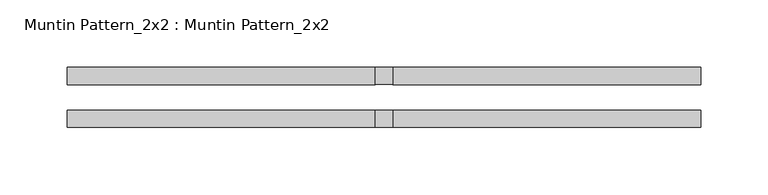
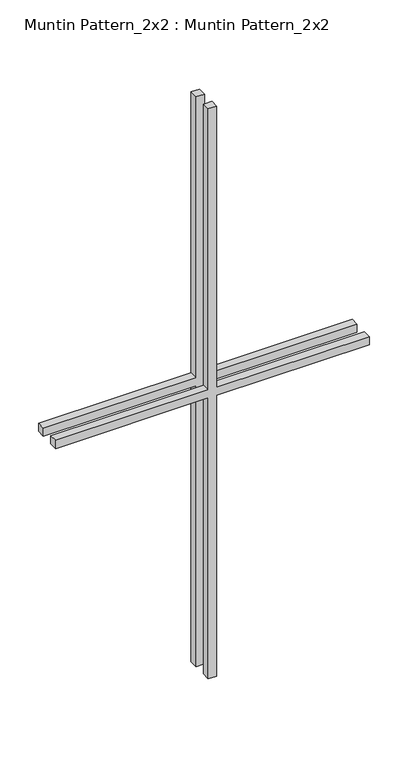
"""IFC4 building model written with IfcOpenShell, lengths in millimetres: proxy geometry, Muntin Pattern_2x2 : Muntin Pattern_2x2."""

from ifc_helpers import new_model, si_unit, frame, origin, place, context, project, spatial, polyline, outline, extrude, source, transform, mapped, element, save


def muntin_pattern_2x2_muntin_pattern_2x2_ddce0145(model_context):
    return source(origin(), model_context, "Body", "SweptSolid", [
        extrude(outline(polyline([(457.2, -6.35), (457.2, -234.95), (444.5, -234.95), (444.5, -6.35), (0.0, -6.35), (0.0, 6.35), (444.5, 6.35), (444.5, 234.95), (457.2, 234.95), (457.2, 6.35), (901.7, 6.35), (901.7, -6.35), (457.2, -6.35)])), frame((0.0, 9.525, 0.0), z_axis=(0.0, 1.0, 0.0), x_axis=(0.0, 0.0, 1.0)), (0.0, 0.0, 1.0), 12.7),
        extrude(outline(polyline([(457.2, -6.35), (457.2, -234.95), (444.5, -234.95), (444.5, -6.35), (0.0, -6.35), (0.0, 6.35), (444.5, 6.35), (444.5, 234.95), (457.2, 234.95), (457.2, 6.35), (901.7, 6.35), (901.7, -6.35), (457.2, -6.35)])), frame((0.0, -22.225, 0.0), z_axis=(0.0, 1.0, 0.0), x_axis=(0.0, 0.0, 1.0)), (0.0, 0.0, 1.0), 12.7),
    ])


if __name__ == "__main__":
    model = new_model("IFC4")
    model_context = context("Model", 3, world=origin())
    ifc_project = project(units=[si_unit("LENGTHUNIT", "METRE", prefix="MILLI")], contexts=[model_context])
    site = spatial("IfcSite", under=ifc_project)
    building = spatial("IfcBuilding", under=site)
    placement = place(None, origin())
    muntin_pattern_2x2_muntin_pattern_2x2_shape = muntin_pattern_2x2_muntin_pattern_2x2_ddce0145(model_context)
    element("IfcBuildingElementProxy", 1, Name="Muntin Pattern_2x2 : Muntin Pattern_2x2", ObjectType="Muntin Pattern_2x2 : Muntin Pattern_2x2", at=placement, inside=building, context=model_context, shape_type="MappedRepresentation", body=[
        mapped(muntin_pattern_2x2_muntin_pattern_2x2_shape, transform((0.0, 0.0, 0.0), x_axis=(1.0, 0.0, 0.0), y_axis=(0.0, 1.0, 0.0), z_axis=(0.0, 0.0, 1.0))),
    ])
    save(model, "model.ifc")
